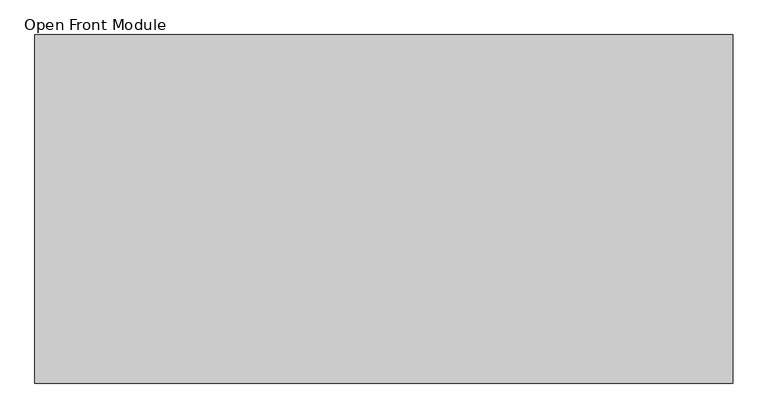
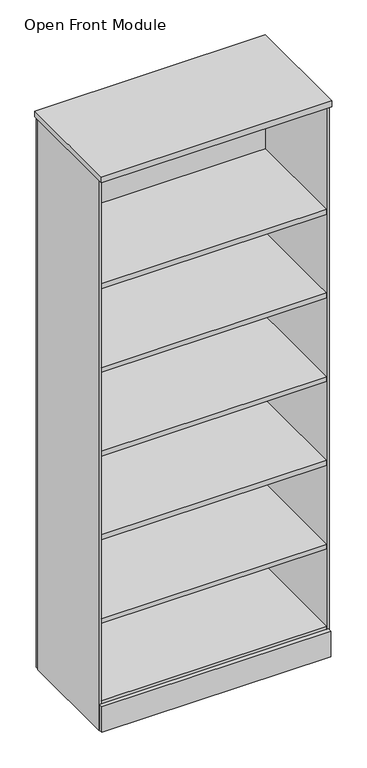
"""IFC4 building model written with IfcOpenShell, lengths in millimetres: furniture geometry, Furniture_Storage_Spacestor_SignatureStoragewall : Open Front Module."""

from ifc_helpers import new_model, si_unit, frame, origin, origin_with_axes, place, context, project, spatial, polyline, outline, extrude, source, transform, mapped, element, save


def open_front_module_2814b3d3(model_context):
    return source(origin(), model_context, "Body", "SweptSolid", [
        extrude(outline(polyline([(996.5, 459.0), (3.5, 459.0), (3.5, 477.0), (996.5, 477.0), (996.5, 459.0)])), origin_with_axes(), (0.0, 0.0, 1.0), 2518.0),
        extrude(outline(polyline([(996.5, -18.0), (3.5, -18.0), (3.5, 0.0), (996.5, 0.0), (996.5, -18.0)])), origin_with_axes(), (0.0, 0.0, 1.0), 118.0),
        extrude(outline(polyline([(1000.0, -20.5), (0.0, -20.5), (0.0, 479.5), (1000.0, 479.5), (1000.0, -20.5)])), frame((0.0, 0.0, 2525.0), z_axis=(0.0, 0.0, 1.0), x_axis=(1.0, 0.0, 0.0)), (0.0, 0.0, 1.0), 25.5),
        extrude(outline(polyline([(1000.0, 0.0), (989.0, 0.0), (989.0, 459.0), (1000.0, 459.0), (1000.0, 0.0)])), origin_with_axes(), (0.0, 0.0, 1.0), 2532.5),
        extrude(outline(polyline([(11.0, 0.0), (0.0, 0.0), (0.0, 459.0), (11.0, 459.0), (11.0, 0.0)])), origin_with_axes(), (0.0, 0.0, 1.0), 2532.5),
        extrude(outline(polyline([(989.0, 0.0), (11.0, 0.0), (11.0, 459.0), (989.0, 459.0), (989.0, 0.0)])), frame((0.0, 0.0, 2023.0), z_axis=(0.0, 0.0, 1.0), x_axis=(1.0, 0.0, 0.0)), (0.0, 0.0, 1.0), 22.0),
        extrude(outline(polyline([(989.0, 0.0), (11.0, 0.0), (11.0, 459.0), (989.0, 459.0), (989.0, 0.0)])), frame((0.0, 0.0, 1639.0), z_axis=(0.0, 0.0, 1.0), x_axis=(1.0, 0.0, 0.0)), (0.0, 0.0, 1.0), 22.0),
        extrude(outline(polyline([(989.0, 0.0), (11.0, 0.0), (11.0, 459.0), (989.0, 459.0), (989.0, 0.0)])), frame((0.0, 0.0, 1255.0), z_axis=(0.0, 0.0, 1.0), x_axis=(1.0, 0.0, 0.0)), (0.0, 0.0, 1.0), 22.0),
        extrude(outline(polyline([(989.0, 0.0), (11.0, 0.0), (11.0, 459.0), (989.0, 459.0), (989.0, 0.0)])), frame((0.0, 0.0, 871.0), z_axis=(0.0, 0.0, 1.0), x_axis=(1.0, 0.0, 0.0)), (0.0, 0.0, 1.0), 22.0),
        extrude(outline(polyline([(989.0, 0.0), (11.0, 0.0), (11.0, 459.0), (989.0, 459.0), (989.0, 0.0)])), frame((0.0, 0.0, 487.0), z_axis=(0.0, 0.0, 1.0), x_axis=(1.0, 0.0, 0.0)), (0.0, 0.0, 1.0), 22.0),
        extrude(outline(polyline([(989.0, 0.0), (11.0, 0.0), (11.0, 459.0), (989.0, 459.0), (989.0, 0.0)])), frame((0.0, 0.0, 110.5), z_axis=(0.0, 0.0, 1.0), x_axis=(1.0, 0.0, 0.0)), (0.0, 0.0, 1.0), 22.0),
        extrude(outline(polyline([(989.0, 0.0), (11.0, 0.0), (11.0, 459.0), (989.0, 459.0), (989.0, 0.0)])), frame((0.0, 0.0, 2510.0), z_axis=(0.0, 0.0, 1.0), x_axis=(1.0, 0.0, 0.0)), (0.0, 0.0, 1.0), 22.0),
    ])


if __name__ == "__main__":
    model = new_model("IFC4")
    model_context = context("Model", 3, world=origin())
    ifc_project = project(units=[si_unit("LENGTHUNIT", "METRE", prefix="MILLI")], contexts=[model_context])
    site = spatial("IfcSite", under=ifc_project)
    building = spatial("IfcBuilding", under=site)
    placement = place(None, origin())
    open_front_module_shape = open_front_module_2814b3d3(model_context)
    element("IfcFurniture", 1, ObjectType="Furniture_Storage_Spacestor_SignatureStoragewall : Open Front Module", at=placement, inside=building, context=model_context, shape_type="MappedRepresentation", body=[
        mapped(open_front_module_shape, transform((0.0, 0.0, 0.0), x_axis=(1.0, 0.0, 0.0), y_axis=(0.0, 1.0, 0.0), z_axis=(0.0, 0.0, 1.0))),
    ])
    save(model, "model.ifc")
